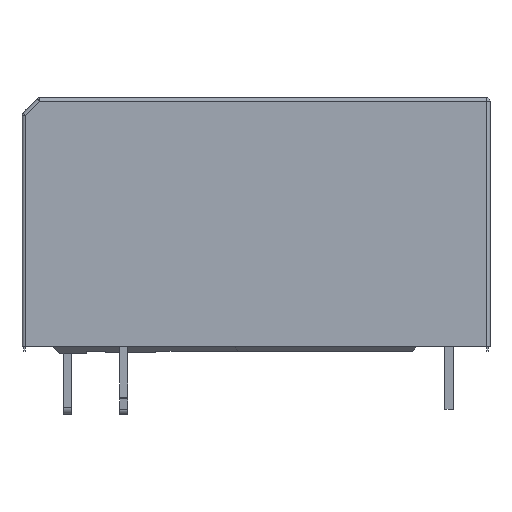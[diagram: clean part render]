
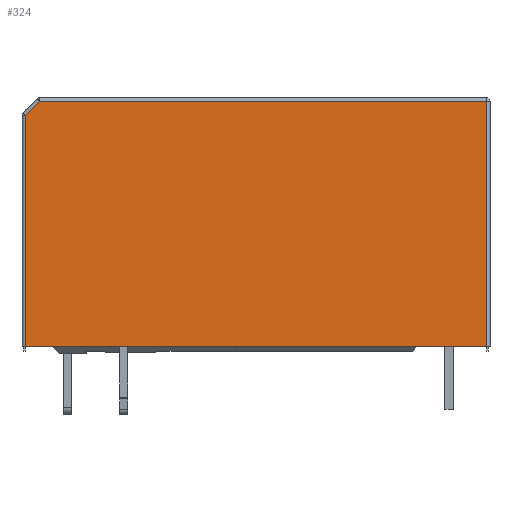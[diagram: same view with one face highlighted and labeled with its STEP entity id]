
A CAD part, front view. The second image highlights one B-rep face of the part: STEP entity #324.
In plain terms, the highlighted planar face has unit normal (0, -1, 0).
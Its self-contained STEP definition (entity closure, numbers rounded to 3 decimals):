
#186=PLANE('',#3759);
#324=ADVANCED_FACE('',(#577),#186,.T.);
#577=FACE_OUTER_BOUND('',#775,.T.);
#775=EDGE_LOOP('',(#1198,#1199,#1200,#1201,#1202));
#1198=ORIENTED_EDGE('',*,*,#2525,.T.);
#1199=ORIENTED_EDGE('',*,*,#2526,.T.);
#1200=ORIENTED_EDGE('',*,*,#2527,.T.);
#1201=ORIENTED_EDGE('',*,*,#2502,.T.);
#1202=ORIENTED_EDGE('',*,*,#2528,.T.);
#2166=VERTEX_POINT('',#5186);
#2167=VERTEX_POINT('',#5188);
#2184=VERTEX_POINT('',#5233);
#2185=VERTEX_POINT('',#5234);
#2186=VERTEX_POINT('',#5236);
#2502=EDGE_CURVE('',#2167,#2166,#2998,.T.);
#2525=EDGE_CURVE('',#2184,#2185,#3017,.T.);
#2526=EDGE_CURVE('',#2185,#2186,#3018,.T.);
#2527=EDGE_CURVE('',#2186,#2167,#3019,.T.);
#2528=EDGE_CURVE('',#2166,#2184,#3020,.T.);
#2998=LINE('',#5187,#3384);
#3017=LINE('',#5232,#3403);
#3018=LINE('',#5235,#3404);
#3019=LINE('',#5237,#3405);
#3020=LINE('',#5238,#3406);
#3384=VECTOR('',#4134,1.);
#3403=VECTOR('',#4171,1.);
#3404=VECTOR('',#4172,1.);
#3405=VECTOR('',#4173,1.);
#3406=VECTOR('',#4174,1.);
#3759=AXIS2_PLACEMENT_3D('',#5239,#4175,#4176);
#4134=DIRECTION('',(1.,0.,0.));
#4171=DIRECTION('',(-1.,0.,0.));
#4172=DIRECTION('',(-0.707,0.,-0.707));
#4173=DIRECTION('',(0.,0.,-1.));
#4174=DIRECTION('',(0.,0.,1.));
#4175=DIRECTION('',(0.,-1.,0.));
#4176=DIRECTION('',(0.,0.,-1.));
#5186=CARTESIAN_POINT('',(22.5,-6.25,-0.5));
#5187=CARTESIAN_POINT('',(-6.3,-6.25,-0.5));
#5188=CARTESIAN_POINT('',(-6.1,-6.25,-0.5));
#5232=CARTESIAN_POINT('',(-5.3,-6.25,14.7));
#5233=CARTESIAN_POINT('',(22.5,-6.25,14.7));
#5234=CARTESIAN_POINT('',(-5.217,-6.25,14.7));
#5235=CARTESIAN_POINT('',(-13.359,-6.25,6.559));
#5236=CARTESIAN_POINT('',(-6.1,-6.25,13.817));
#5237=CARTESIAN_POINT('',(-6.1,-6.25,-0.5));
#5238=CARTESIAN_POINT('',(22.5,-6.25,-0.5));
#5239=CARTESIAN_POINT('',(-6.3,-6.25,-0.5));
